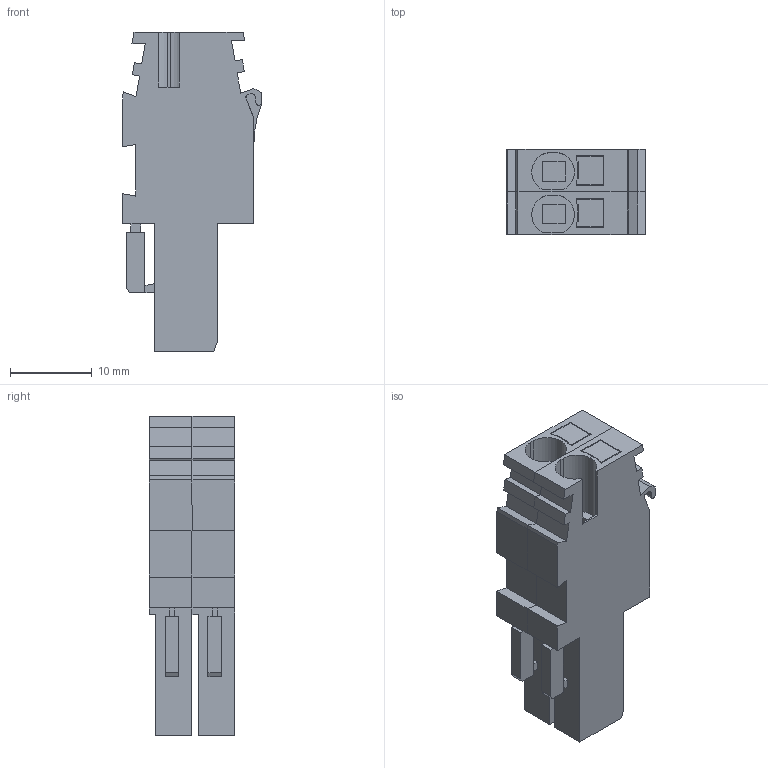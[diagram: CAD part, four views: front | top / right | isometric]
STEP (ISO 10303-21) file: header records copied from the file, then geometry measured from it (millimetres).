
FILE_DESCRIPTION(('Open CASCADE Model'),'2;1');
FILE_NAME('Open CASCADE Shape Model','2023-02-07T14:16:12',('Author'),( 'Open CASCADE'),'Open CASCADE STEP processor 6.5','Open CASCADE 6.5' ,'Unknown');
FILE_SCHEMA(('AUTOMOTIVE_DESIGN { 1 0 10303 214 1 1 1 1 }'));
Length unit declared in the file: millimetre
Products named in the file (218): CADSOFTTOOLS 1; CADSOFTTOOLS 1.1; CADSOFTTOOLS 1.2; CADSOFTTOOLS 1.3; CADSOFTTOOLS 1.4; CADSOFTTOOLS 1.5; CADSOFTTOOLS 1.6; CADSOFTTOOLS 1.7; CADSOFTTOOLS 1.8; CADSOFTTOOLS 1.9; CADSOFTTOOLS 1.10; CADSOFTTOOLS 1.11; CADSOFTTOOLS 1.12; CADSOFTTOOLS 1.13; CADSOFTTOOLS 1.14; CADSOFTTOOLS 1.15; CADSOFTTOOLS 1.16; CADSOFTTOOLS 1.17; CADSOFTTOOLS 1.18; CADSOFTTOOLS 1.19; CADSOFTTOOLS 1.20; CADSOFTTOOLS 1.21; CADSOFTTOOLS 1.22; CADSOFTTOOLS 1.23; CADSOFTTOOLS 1.24; CADSOFTTOOLS 1.25; CADSOFTTOOLS 1.26; CADSOFTTOOLS 1.27; CADSOFTTOOLS 1.28; CADSOFTTOOLS 1.29; CADSOFTTOOLS 1.30; CADSOFTTOOLS 1.31; CADSOFTTOOLS 1.32; CADSOFTTOOLS 1.33; CADSOFTTOOLS 1.34; CADSOFTTOOLS 1.35; CADSOFTTOOLS 1.36; CADSOFTTOOLS 1.37; CADSOFTTOOLS 1.38; CADSOFTTOOLS 1.39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
Assembly tree (217 placements, depth 2):
  CADSOFTTOOLS 1
    CADSOFTTOOLS 1.1
    CADSOFTTOOLS 1.2
    CADSOFTTOOLS 1.3
    CADSOFTTOOLS 1.4
    CADSOFTTOOLS 1.5
    CADSOFTTOOLS 1.6
    CADSOFTTOOLS 1.7
    CADSOFTTOOLS 1.8
    CADSOFTTOOLS 1.9
    CADSOFTTOOLS 1.10
    CADSOFTTOOLS 1.11
    CADSOFTTOOLS 1.12
    CADSOFTTOOLS 1.13
    CADSOFTTOOLS 1.14
    CADSOFTTOOLS 1.15
    CADSOFTTOOLS 1.16
    CADSOFTTOOLS 1.17
    CADSOFTTOOLS 1.18
    CADSOFTTOOLS 1.19
    CADSOFTTOOLS 1.20
    CADSOFTTOOLS 1.21
    CADSOFTTOOLS 1.22
    CADSOFTTOOLS 1.23
    CADSOFTTOOLS 1.24
    CADSOFTTOOLS 1.25
    CADSOFTTOOLS 1.26
    CADSOFTTOOLS 1.27
    CADSOFTTOOLS 1.28
    CADSOFTTOOLS 1.29
    CADSOFTTOOLS 1.30
    CADSOFTTOOLS 1.31
    CADSOFTTOOLS 1.32
    CADSOFTTOOLS 1.33
    CADSOFTTOOLS 1.34
    CADSOFTTOOLS 1.35
    CADSOFTTOOLS 1.36
    CADSOFTTOOLS 1.37
    CADSOFTTOOLS 1.38
    CADSOFTTOOLS 1.39
    CADSOFTTOOLS 1.40
    CADSOFTTOOLS 1.41
    CADSOFTTOOLS 1.42
    CADSOFTTOOLS 1.43
    CADSOFTTOOLS 1.44
    CADSOFTTOOLS 1.45
    CADSOFTTOOLS 1.46
    CADSOFTTOOLS 1.47
    CADSOFTTOOLS 1.48
    CADSOFTTOOLS 1.49
    CADSOFTTOOLS 1.50
    CADSOFTTOOLS 1.51
    CADSOFTTOOLS 1.52
    CADSOFTTOOLS 1.53
    CADSOFTTOOLS 1.54
    CADSOFTTOOLS 1.55
    CADSOFTTOOLS 1.56
    CADSOFTTOOLS 1.57
    CADSOFTTOOLS 1.58
    CADSOFTTOOLS 1.59
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Bounding box: 16.9 x 10.4 x 39 mm (x, y, z)
Surface area: 3214.6 mm2 (no closed solid volume)
Topology: 0 solids, 217 shells, 217 faces, 1154 edges, 1154 vertices
Faces by surface type: plane 195, cylinder 22
Entity records: 23535 total; most frequent: CARTESIAN_POINT 4192, DIRECTION 3140, LINE 2076, VECTOR 2076, ORIENTED_EDGE 1154, EDGE_CURVE 1154, VERTEX_POINT 1154, SURFACE_CURVE 1154
